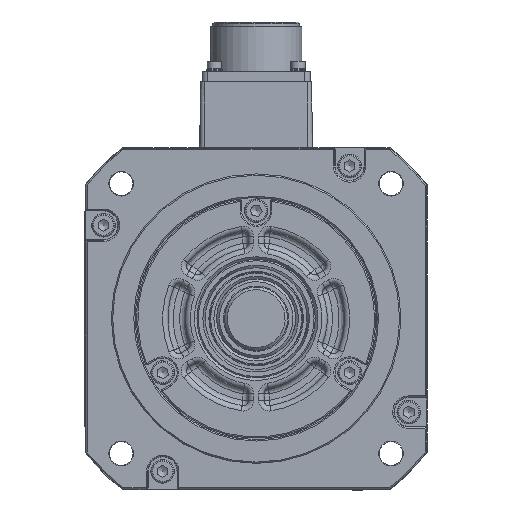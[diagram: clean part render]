
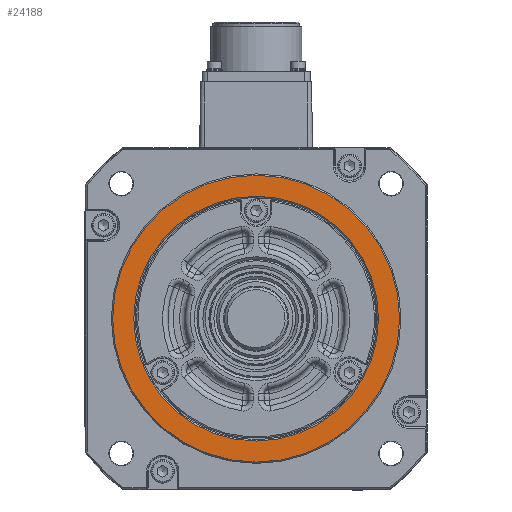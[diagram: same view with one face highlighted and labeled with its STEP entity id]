
A CAD part, front view. The second image highlights one B-rep face of the part: STEP entity #24188.
In plain terms, the highlighted planar face has unit normal (0, -1, 0).
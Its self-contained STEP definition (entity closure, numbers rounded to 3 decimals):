
#4089=CARTESIAN_POINT('',(54.5,-81.0,0.));
#4090=VERTEX_POINT('',#4089);
#4091=CARTESIAN_POINT('',(0.0,-81.0,0.));
#4092=DIRECTION('',(0.0,1.0,0.0));
#4093=DIRECTION('',(-1.0,0.0,0.0));
#4094=AXIS2_PLACEMENT_3D('',#4091,#4092,#4093);
#4095=CIRCLE('',#4094,54.5);
#4096=EDGE_CURVE('',#4090,#4090,#4095,.T.);
#4137=CARTESIAN_POINT('',(46.5,-81.0,0.));
#4138=VERTEX_POINT('',#4137);
#4139=CARTESIAN_POINT('',(0.0,-81.0,0.));
#4140=DIRECTION('',(0.0,-1.0,0.0));
#4141=DIRECTION('',(-1.0,0.0,0.0));
#4142=AXIS2_PLACEMENT_3D('',#4139,#4140,#4141);
#4143=CIRCLE('',#4142,46.5);
#4144=EDGE_CURVE('',#4138,#4138,#4143,.T.);
#24177=CARTESIAN_POINT('',(0.0,-81.0,0.));
#24178=DIRECTION('',(0.0,-1.0,0.0));
#24179=DIRECTION('',(0.0,0.0,-1.0));
#24180=AXIS2_PLACEMENT_3D('',#24177,#24178,#24179);
#24181=PLANE('',#24180);
#24182=ORIENTED_EDGE('',*,*,#4096,.F.);
#24183=EDGE_LOOP('',(#24182));
#24184=FACE_OUTER_BOUND('',#24183,.T.);
#24185=ORIENTED_EDGE('',*,*,#4144,.F.);
#24186=EDGE_LOOP('',(#24185));
#24187=FACE_BOUND('',#24186,.T.);
#24188=ADVANCED_FACE('',(#24184,#24187),#24181,.T.);
